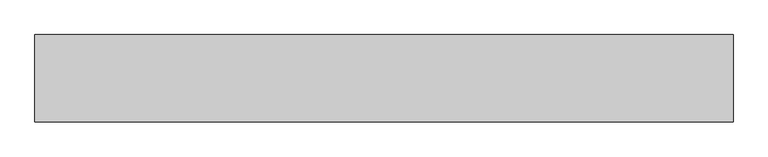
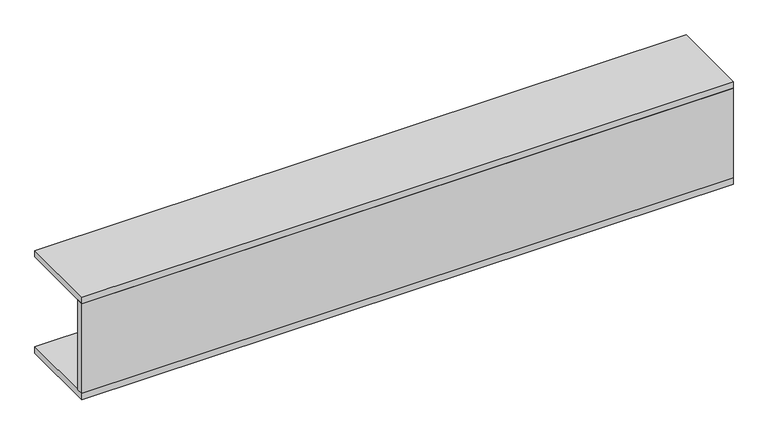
"""IFC4 building model written with IfcOpenShell, lengths in millimetres: proxy geometry, ELEVATE^ADMIN_12x72 PLANTER-WITHOUT ENDS."""

from ifc_helpers import new_model, si_unit, frame, origin, place, context, project, spatial, polyline, outline, extrude, source, transform, mapped, element, save


def generic_models_7ea8982d(model_context):
    return source(origin(), model_context, "Body", "SweptSolid", [
        extrude(outline(polyline([(1828.8, 0.0), (0.0, 0.0), (0.0, 228.6), (1828.8, 228.6), (1828.8, 0.0)])), frame((0.0, 0.0, -19.05), z_axis=(0.0, 0.0, 1.0), x_axis=(1.0, 0.0, 0.0)), (0.0, 0.0, 1.0), 19.05),
        extrude(outline(polyline([(1828.8, 0.0), (0.0, 0.0), (0.0, 19.05), (1828.8, 19.05), (1828.8, 0.0)])), frame((0.0, 0.0, -285.75), z_axis=(0.0, 0.0, 1.0), x_axis=(1.0, 0.0, 0.0)), (0.0, 0.0, 1.0), 266.7),
        extrude(outline(polyline([(1828.8, 0.0), (0.0, 0.0), (0.0, 228.6), (1828.8, 228.6), (1828.8, 0.0)])), frame((0.0, 0.0, -304.8), z_axis=(0.0, 0.0, 1.0), x_axis=(1.0, 0.0, 0.0)), (0.0, 0.0, 1.0), 19.05),
    ])


if __name__ == "__main__":
    model = new_model("IFC4")
    model_context = context("Model", 3, world=origin())
    ifc_project = project(units=[si_unit("LENGTHUNIT", "METRE", prefix="MILLI")], contexts=[model_context])
    site = spatial("IfcSite", under=ifc_project)
    building = spatial("IfcBuilding", under=site)
    placement = place(None, origin())
    generic_models_shape = generic_models_7ea8982d(model_context)
    element("IfcBuildingElementProxy", 1, Name="ELEVATE^ADMIN_12x72 PLANTER-WITHOUT ENDS", ObjectType="ELEVATE^ADMIN_12x72 PLANTER-WITHOUT ENDS", at=placement, inside=building, context=model_context, shape_type="MappedRepresentation", body=[
        mapped(generic_models_shape, transform((0.0, 0.0, 0.0), x_axis=(1.0, 0.0, 0.0), y_axis=(0.0, 1.0, 0.0), z_axis=(0.0, 0.0, 1.0))),
    ])
    save(model, "model.ifc")
